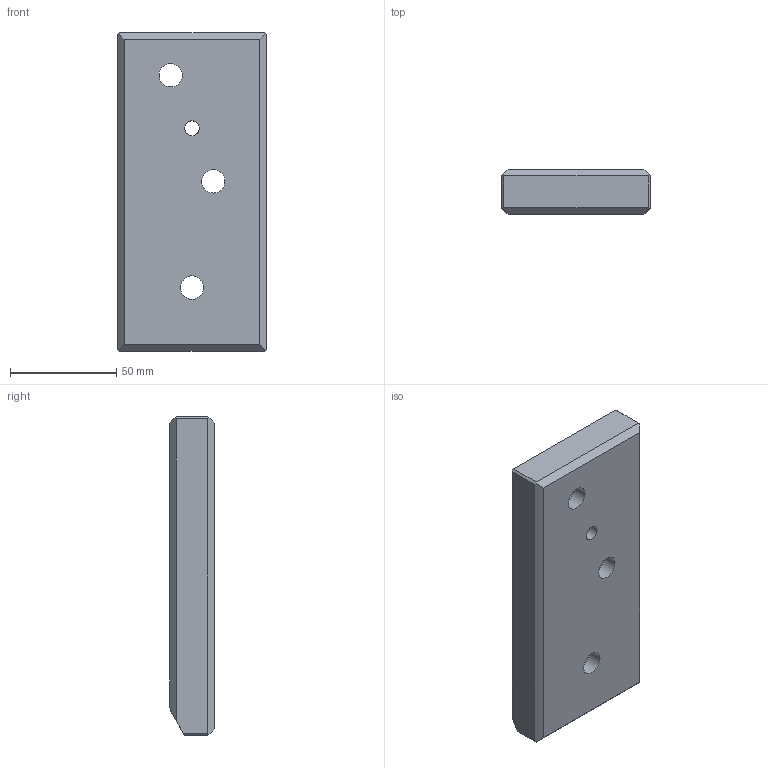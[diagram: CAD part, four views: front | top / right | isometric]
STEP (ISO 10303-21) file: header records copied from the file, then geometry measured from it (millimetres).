
FILE_DESCRIPTION(/* description */ ('Impex Ready, www.impex-ready.pl'),/* implementation_level */ '2;1');
FILE_NAME(/* name */ 'C:\Users\VIKKY\Nextcloud\SM\projekt 10 - części na stronę internetową\Pliki_3D_new\324 Płytki PG15\324 PG15_STEP\PG15.070150.ipt.step',/* time_stamp */ '2021-12-19T18:25:12+01:00',/* author */ ('SM'),/* organization */ (''),/* preprocessor_version */ 'ST-DEVELOPER v18.1',/* originating_system */ 'Autodesk Inventor 2021',/* authorisation */ '');
FILE_SCHEMA (('AUTOMOTIVE_DESIGN { 1 0 10303 214 3 1 1 }'));
Length unit declared in the file: millimetre
Products named in the file (1): PG15.070150
Bounding box: 70 x 21 x 150 mm (x, y, z)
Volume: 197272.7 mm3; surface area: 31507.1 mm2
Topology: 1 solids, 1 shells, 48 faces, 138 edges, 92 vertices
Faces by surface type: plane 33, cylinder 11, cone 4
Full cylindrical faces by diameter (mm): 7 x1, 11 x3, 20 x3
Entity records: 1724 total; most frequent: CARTESIAN_POINT 365, ORIENTED_EDGE 276, DIRECTION 256, EDGE_CURVE 138, VERTEX_POINT 92, AXIS2_PLACEMENT_3D 91, LINE 74, VECTOR 74
